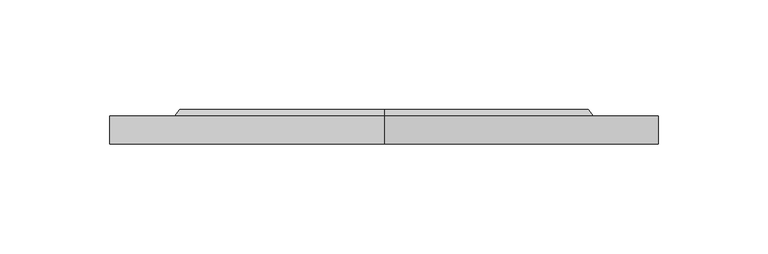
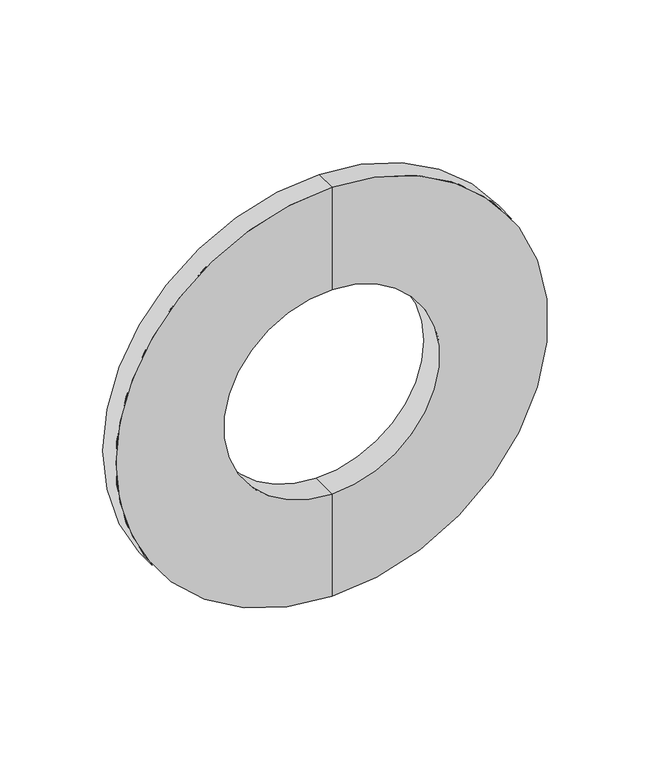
"""IFC4 building model written with IfcOpenShell, lengths in millimetres: pipe fitting geometry, Фланец : Фланец."""

from ifc_helpers import new_model, si_unit, frame, origin, place, context, project, spatial, polyline, circle_curve, source, transform, mapped, element, save
from ifc_brep_helpers import plane_surface, cylinder_surface, revolved_surface, advanced_brep


def pipe_fitting_1b7cc539(model_context):
    return source(origin(), model_context, "Body", "AdvancedBrep", [
        advanced_brep(
        [(0.0, 0.0, -125.0), (0.0, 0.0, 125.0), (0.0, 12.8, 125.0), (0.0, 12.8, -125.0), (0.0, 0.0, -62.5), (0.0, 0.0, 62.5), (0.0, 15.8, -62.5), (0.0, 15.8, 62.5), (0.0, 15.8, -93.5), (0.0, 15.8, 93.5), (0.0, 12.8, -96.0), (0.0, 12.8, 96.0)],
        [
            (0, 1, circle_curve(frame((0.0, 0.0, 0.0), z_axis=(0.0, 1.0, 0.0), x_axis=(0.0, 0.0, 1.0)), 125.0)),
            (1, 2),
            (2, 3, circle_curve(frame((0.0, 12.8, 0.0), z_axis=(0.0, -1.0, 0.0), x_axis=(0.0, 0.0, 1.0)), 125.0)),
            (3, 0),
            (1, 0, circle_curve(frame((0.0, 0.0, 0.0), z_axis=(0.0, 1.0, 0.0), x_axis=(0.0, 0.0, 1.0)), 125.0)),
            (3, 2, circle_curve(frame((0.0, 12.8, 0.0), z_axis=(0.0, -1.0, 0.0), x_axis=(0.0, 0.0, 1.0)), 125.0)),
            (4, 5, circle_curve(frame((0.0, 0.0, 0.0), z_axis=(0.0, 1.0, 0.0), x_axis=(0.0, 0.0, 1.0)), 62.5)),
            (5, 1),
            (0, 4),
            (5, 4, circle_curve(frame((0.0, 0.0, 0.0), z_axis=(0.0, 1.0, 0.0), x_axis=(0.0, 0.0, 1.0)), 62.5)),
            (6, 7, circle_curve(frame((0.0, 15.8, 0.0), z_axis=(0.0, 1.0, 0.0), x_axis=(0.0, 0.0, 1.0)), 62.5)),
            (7, 5),
            (4, 6),
            (7, 6, circle_curve(frame((0.0, 15.8, 0.0), z_axis=(0.0, 1.0, 0.0), x_axis=(0.0, 0.0, 1.0)), 62.5)),
            (8, 9, circle_curve(frame((0.0, 15.8, 0.0), z_axis=(0.0, 1.0, 0.0), x_axis=(0.0, 0.0, 1.0)), 93.5)),
            (9, 7),
            (6, 8),
            (9, 8, circle_curve(frame((0.0, 15.8, 0.0), z_axis=(0.0, 1.0, 0.0), x_axis=(0.0, 0.0, 1.0)), 93.5)),
            (10, 11, circle_curve(frame((0.0, 12.8, 0.0), z_axis=(0.0, 1.0, 0.0), x_axis=(0.0, 0.0, 1.0)), 96.0)),
            (11, 9),
            (8, 10),
            (11, 10, circle_curve(frame((0.0, 12.8, 0.0), z_axis=(0.0, 1.0, 0.0), x_axis=(0.0, 0.0, 1.0)), 96.0)),
            (2, 11),
            (10, 3),
        ],
        [
            cylinder_surface(frame((0.0, -60.0, 0.0), z_axis=(0.0, -1.0, 0.0), x_axis=(0.0, 0.0, 1.0)), 125.0),
            plane_surface(frame((0.0, 0.0, 0.0), z_axis=(0.0, -1.0, 0.0), x_axis=(0.0, 0.0, 1.0))),
            revolved_surface(polyline([(0.0, 0.0, 62.5), (0.0, 15.799999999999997, 62.5)]), (0.0, -60.0, 0.0), (0.0, -1.0, 0.0)),
            plane_surface(frame((0.0, 15.8, 0.0), z_axis=(0.0, 1.0, 0.0), x_axis=(0.0, 0.0, 1.0))),
            revolved_surface(polyline([(0.0, 15.8, 93.5), (0.0, 12.8, 96.0)]), (0.0, -60.0, 0.0), (0.0, -1.0, 0.0)),
            plane_surface(frame((0.0, 12.8, 0.0), z_axis=(0.0, 1.0, 0.0), x_axis=(0.0, 0.0, 1.0))),
        ],
        [
            (0, [[1, 2, 3, 4]]),
            (0, [[5, -4, 6, -2]]),
            (1, [[7, 8, -1, 9]]),
            (1, [[10, -9, -5, -8]]),
            (2, [[11, 12, -7, 13]]),
            (2, [[14, -13, -10, -12]]),
            (3, [[15, 16, -11, 17]]),
            (3, [[18, -17, -14, -16]]),
            (4, [[19, 20, -15, 21]]),
            (4, [[22, -21, -18, -20]]),
            (5, [[-3, 23, -19, 24]]),
            (5, [[-6, -24, -22, -23]]),
        ],
    ),
    ])


if __name__ == "__main__":
    model = new_model("IFC4")
    model_context = context("Model", 3, world=origin())
    ifc_project = project(units=[si_unit("LENGTHUNIT", "METRE", prefix="MILLI")], contexts=[model_context])
    site = spatial("IfcSite", under=ifc_project)
    building = spatial("IfcBuilding", under=site)
    placement = place(None, origin())
    pipe_fitting_shape = pipe_fitting_1b7cc539(model_context)
    element("IfcPipeFitting", 1, ObjectType="Фланец : Фланец", at=placement, inside=building, context=model_context, shape_type="MappedRepresentation", body=[
        mapped(pipe_fitting_shape, transform((0.0, 0.0, 0.0), x_axis=(1.0, 0.0, 0.0), y_axis=(0.0, 1.0, 0.0), z_axis=(0.0, 0.0, 1.0))),
    ])
    save(model, "model.ifc")
